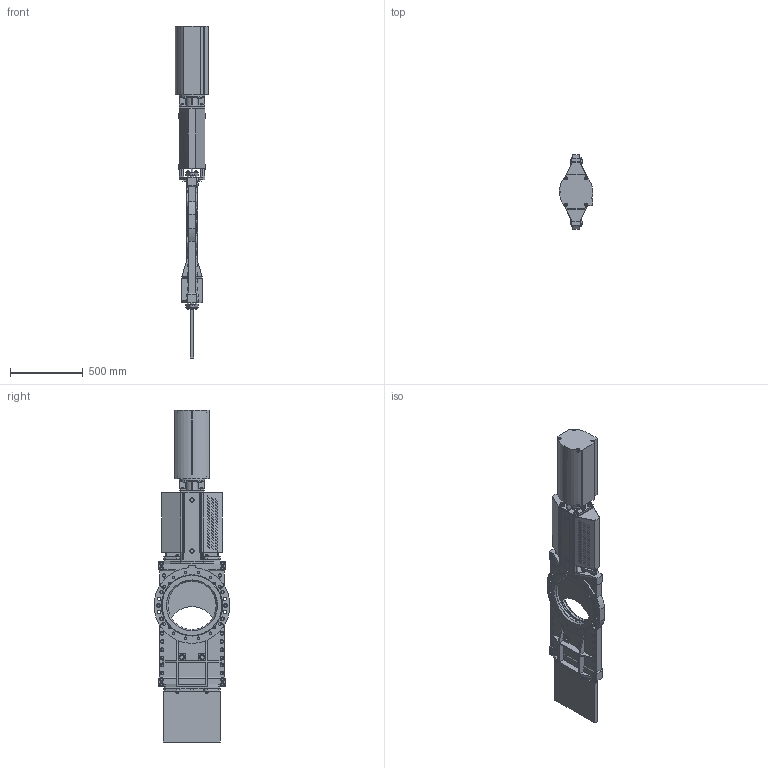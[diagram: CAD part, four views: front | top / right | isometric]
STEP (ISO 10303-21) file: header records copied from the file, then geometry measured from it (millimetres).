
FILE_DESCRIPTION(('STEP AP203'),'1');
FILE_NAME('F:/Alexander/CYLSAM/2D-3D/HG/350/HG-DN350-EC200.stp','2012-11-29T10:28:53',(' '),(' '),'Spatial InterOp 3D',' ',' ');
FILE_SCHEMA(('CONFIG_CONTROL_DESIGN'));
Length unit declared in the file: millimetre
Products named in the file (5): 1; 2; 3; 4; 5
Bounding box: 228.6 x 510 x 2280 mm (x, y, z)
Volume: 46743011.8 mm3; surface area: 5401694.9 mm2
Topology: 5 solids, 48 shells, 3944 faces, 9589 edges, 6079 vertices
Faces by surface type: plane 1647, cylinder 1317, cone 928, torus 52
Entity records: 118300 total; most frequent: CARTESIAN_POINT 26171, DIRECTION 19776, ORIENTED_EDGE 19130, EDGE_CURVE 9565, AXIS2_PLACEMENT_3D 7798, VERTEX_POINT 6079, EDGE_LOOP 4656, LINE 4180
